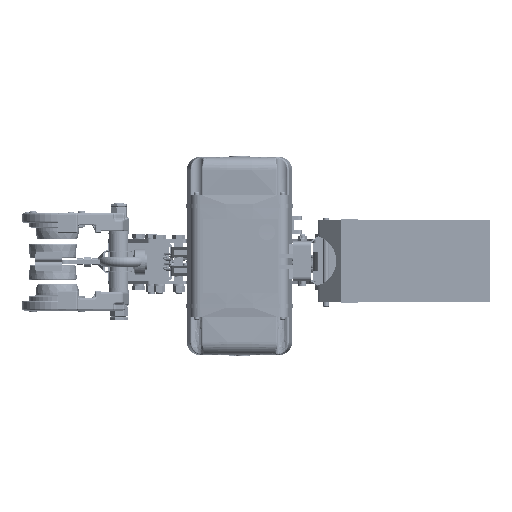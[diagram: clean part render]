
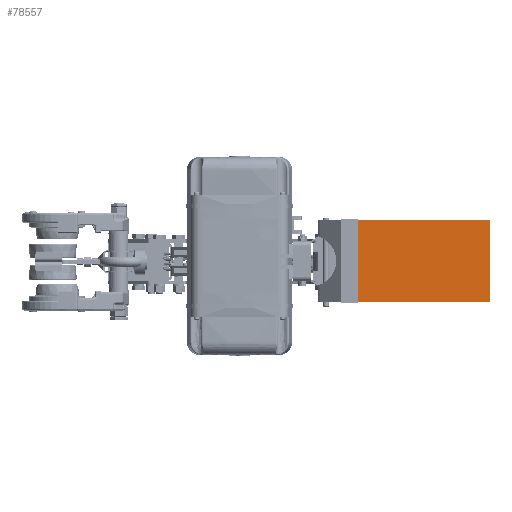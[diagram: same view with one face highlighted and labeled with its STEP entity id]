
A CAD part, left-side view. The second image highlights one B-rep face of the part: STEP entity #78557.
In plain terms, the highlighted planar face has unit normal (-1, 0, 0) as drawn and (0, 1, 0) by its records, which use the part's own axes.
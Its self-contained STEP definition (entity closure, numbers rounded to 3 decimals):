
#77428=CARTESIAN_POINT('',(-64.,82.501,267.003));
#77429=VERTEX_POINT('',#77428);
#77436=CARTESIAN_POINT('',(-64.,82.501,61.003));
#77437=VERTEX_POINT('',#77436);
#77438=CARTESIAN_POINT('',(-64.,82.501,61.003));
#77439=DIRECTION('',(0.0,0.0,1.0));
#77440=VECTOR('',#77439,206.0);
#77441=LINE('',#77438,#77440);
#77442=EDGE_CURVE('',#77437,#77429,#77441,.T.);
#77690=CARTESIAN_POINT('',(64.,82.502,61.003));
#77691=VERTEX_POINT('',#77690);
#77692=CARTESIAN_POINT('',(64.,82.502,61.003));
#77693=DIRECTION('',(-1.0,0.0,0.0));
#77694=VECTOR('',#77693,128.);
#77695=LINE('',#77692,#77694);
#77696=EDGE_CURVE('',#77691,#77437,#77695,.T.);
#78161=CARTESIAN_POINT('',(64.,82.502,267.003));
#78162=VERTEX_POINT('',#78161);
#78163=CARTESIAN_POINT('',(64.,82.502,61.003));
#78164=DIRECTION('',(0.0,0.0,1.0));
#78165=VECTOR('',#78164,206.0);
#78166=LINE('',#78163,#78165);
#78167=EDGE_CURVE('',#77691,#78162,#78166,.T.);
#78516=CARTESIAN_POINT('',(-64.,82.501,267.003));
#78517=DIRECTION('',(1.0,0.0,0.0));
#78518=VECTOR('',#78517,128.0);
#78519=LINE('',#78516,#78518);
#78520=EDGE_CURVE('',#77429,#78162,#78519,.T.);
#78546=CARTESIAN_POINT('',(-64.,82.501,0.0));
#78547=DIRECTION('',(0.0,1.0,0.0));
#78548=DIRECTION('',(0.0,0.0,1.0));
#78549=AXIS2_PLACEMENT_3D('',#78546,#78547,#78548);
#78550=PLANE('',#78549);
#78551=ORIENTED_EDGE('',*,*,#77696,.T.);
#78552=ORIENTED_EDGE('',*,*,#77442,.T.);
#78553=ORIENTED_EDGE('',*,*,#78520,.T.);
#78554=ORIENTED_EDGE('',*,*,#78167,.F.);
#78555=EDGE_LOOP('',(#78551,#78552,#78553,#78554));
#78556=FACE_OUTER_BOUND('',#78555,.T.);
#78557=ADVANCED_FACE('',(#78556),#78550,.T.);
